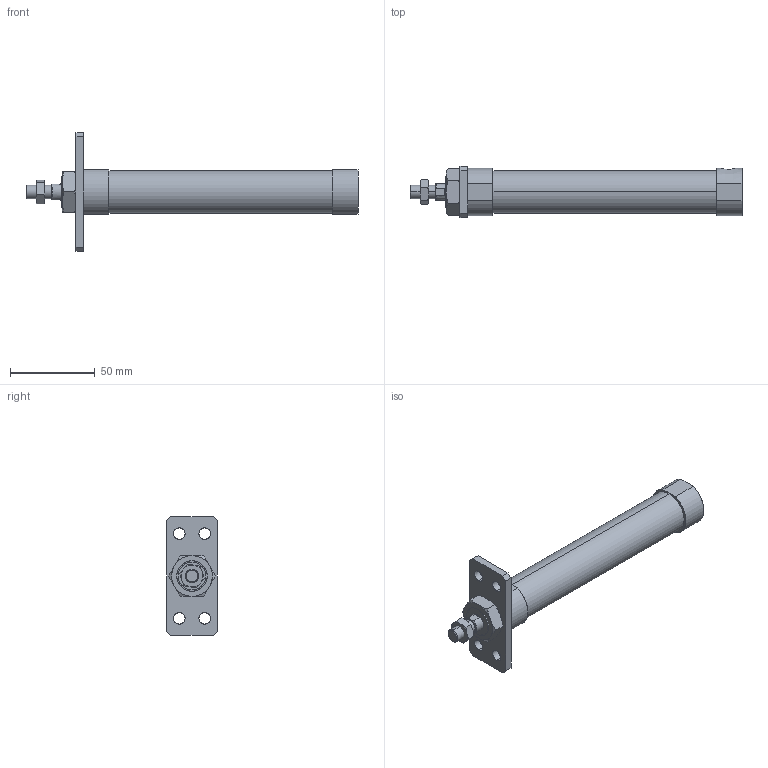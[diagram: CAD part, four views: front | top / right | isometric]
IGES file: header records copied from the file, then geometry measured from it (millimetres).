
Start section: SolidWorks IGES file using analytic representation for surfaces
Global section: file name: C:\Users\Toshiba\Desktop\JGND1-20-50-A.IGS; native system: SolidWorks 2014; preprocessor: SolidWorks 2014; author: Toshiba; date: 160804.101411; units: millimetre
Bounding box: 196 x 30 x 70 mm (x, y, z)
Surface area: 23057.5 mm2 (no closed solid volume)
Topology: 0 solids, 0 shells, 101 faces, 1770 edges, 1770 vertices
Faces by surface type: bspline 67, revolution 34
